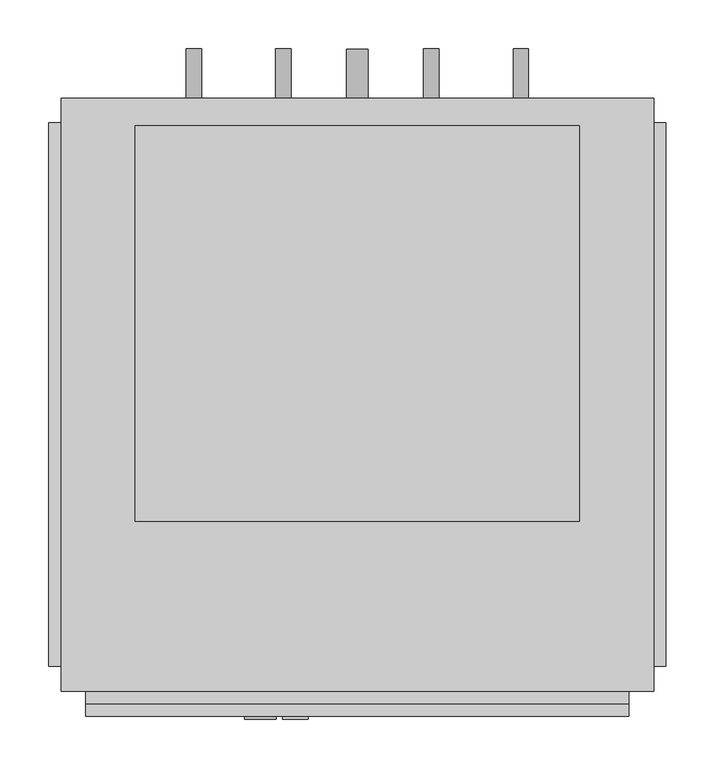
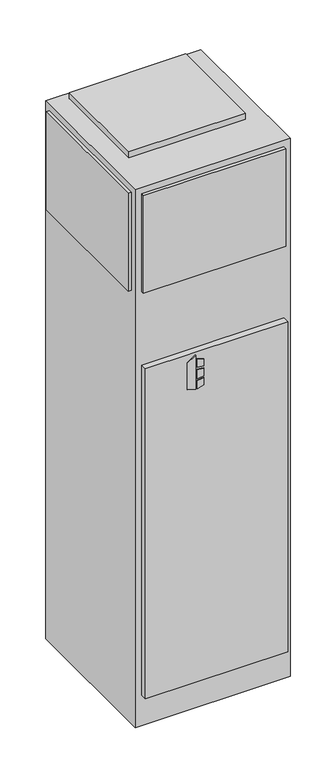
"""IFC4 building model written with IfcOpenShell, lengths in millimetres: proxy geometry, Concealed_Universal_Modular_Fan_Coil_Unit_-_MUY_-_IEC_-_4-Pipe_-_NoRisers_2022 : Size 10 - 277v/60Hz/1Ph - 4/1 Coil."""

import ifcopenshell
import ifcopenshell.guid

model = None  # the IFC model being written
_history = None  # IfcOwnerHistory: only IFC2X3 demands one
_inside = {}  # id of a spatial element -> (the spatial element, [elements in it])
_under = {}  # id of a project, library or spatial element -> (it, [spatial elements below it])
_declared = {}  # id of a project -> (the project, [libraries it declares])
_typed = {}  # id of a type object -> (the type object, [elements of that type])
_made_of = {}  # id of a material, layer set ... -> (it, [elements and type objects made of it])


def new_model(schema):
    """Start an empty IFC model of exactly this schema.

    Asked for "IFC4X3", IfcOpenShell would pick the latest addendum, in which some entities
    have other attributes; the version numbers below select the first issue.
    IFC2X3 requires an IfcOwnerHistory on every rooted entity: one is made here for all.
    """
    global model, _history
    if schema == "IFC4X3":
        model = ifcopenshell.file(schema_version=(4, 3, 0, 0))
    else:
        model = ifcopenshell.file(schema=schema)
    _inside.clear()
    _under.clear()
    _declared.clear()
    _typed.clear()
    _made_of.clear()
    _history = None
    if model.schema == "IFC2X3":
        org = make("IfcOrganization", Name="unknown")
        user = make(
            "IfcPersonAndOrganization",
            ThePerson=make("IfcPerson", FamilyName="unknown"),
            TheOrganization=org,
        )
        app = make(
            "IfcApplication",
            ApplicationDeveloper=org,
            Version="unknown",
            ApplicationFullName="unknown",
            ApplicationIdentifier="unknown",
        )
        _history = make(
            "IfcOwnerHistory",
            OwningUser=user,
            OwningApplication=app,
            ChangeAction="ADDED",
            CreationDate=0,
        )
    return model


def make(cls, **values):
    """One entity of the class cls with the attributes given. An attribute that is None is left unset."""
    return model.create_entity(
        cls, **{name: value for name, value in values.items() if value is not None}
    )


def rooted(cls, **values):
    """An entity with a GlobalId (a new one), such as an element, a storey or a relation."""
    return make(cls, GlobalId=ifcopenshell.guid.new(), OwnerHistory=_history, **values)


def si_unit(unit_type, name, prefix=None):
    """IfcSIUnit, for example si_unit("LENGTHUNIT", "METRE", prefix="MILLI")."""
    return make("IfcSIUnit", UnitType=unit_type, Prefix=prefix, Name=name)


def assignment(units):
    """IfcUnitAssignment: the units of a project."""
    return None if units is None else make("IfcUnitAssignment", Units=units)


def point(xyz):
    """IfcCartesianPoint."""
    return None if xyz is None else make("IfcCartesianPoint", Coordinates=xyz)


def direction(xyz):
    """IfcDirection."""
    return None if xyz is None else make("IfcDirection", DirectionRatios=xyz)


def frame(location, z_axis=None, x_axis=None):
    """IfcAxis2Placement3D, a coordinate frame: its origin and axes. An axis left out is left unset."""
    return make(
        "IfcAxis2Placement3D",
        Location=point(location),
        Axis=direction(z_axis),
        RefDirection=direction(x_axis),
    )


def frame_2d(location, x_axis=None):
    """IfcAxis2Placement2D, a coordinate frame in the plane: its origin and x axis."""
    return make(
        "IfcAxis2Placement2D", Location=point(location), RefDirection=direction(x_axis)
    )


def origin():
    """The frame at (0, 0, 0) with its axes left unset."""
    return frame((0.0, 0.0, 0.0))


def origin_with_axes():
    """The frame at (0, 0, 0) with the z axis (0, 0, 1) and the x axis (1, 0, 0) written out."""
    return frame((0.0, 0.0, 0.0), z_axis=(0.0, 0.0, 1.0), x_axis=(1.0, 0.0, 0.0))


def place(relative_to, where):
    """IfcLocalPlacement: puts the frame where relative to a parent placement (None: the world)."""
    return make(
        "IfcLocalPlacement", PlacementRelTo=relative_to, RelativePlacement=where
    )


def context(
    kind, dimensions, precision=None, world=None, true_north=None, identifier=None
):
    """IfcGeometricRepresentationContext, for example the 3D "Model" context."""
    return make(
        "IfcGeometricRepresentationContext",
        ContextIdentifier=identifier,
        ContextType=kind,
        CoordinateSpaceDimension=dimensions,
        Precision=precision,
        WorldCoordinateSystem=world,
        TrueNorth=true_north,
    )


def project(units=None, contexts=None):
    """IfcProject with its units and contexts."""
    return rooted(
        "IfcProject",
        Name="project",
        RepresentationContexts=contexts,
        UnitsInContext=assignment(units),
    )


def spatial(cls, under=None, at=None, **own):
    """A site, building, storey or space (cls), placed at a placement, below another one or the project."""
    s = rooted(cls, ObjectPlacement=at, **own)
    if under is not None:
        _under.setdefault(under.id(), (under, []))[1].append(s)
    return s


def polyline(points):
    """IfcPolyline through the points."""
    return make("IfcPolyline", Points=[point(p) for p in points])


def circle_curve(where, radius):
    """IfcCircle in the frame where."""
    return make("IfcCircle", Position=where, Radius=radius)


def trimmed(basis, trim1, trim2, sense, master):
    """IfcTrimmedCurve: the piece of a basis curve between two trims."""
    return make(
        "IfcTrimmedCurve",
        BasisCurve=basis,
        Trim1=trim1,
        Trim2=trim2,
        SenseAgreement=sense,
        MasterRepresentation=master,
    )


def segment(curve, same_sense, transition):
    """IfcCompositeCurveSegment."""
    return make(
        "IfcCompositeCurveSegment",
        Transition=transition,
        SameSense=same_sense,
        ParentCurve=curve,
    )


def composite_curve(segments, self_intersect=None):
    """IfcCompositeCurve: segments joined end to end."""
    return make("IfcCompositeCurve", Segments=segments, SelfIntersect=self_intersect)


def outline(outer, holes=None, kind="AREA"):
    """IfcArbitraryClosedProfileDef: a profile drawn as a closed curve; with holes, ...WithVoids."""
    if holes is None:
        return make("IfcArbitraryClosedProfileDef", ProfileType=kind, OuterCurve=outer)
    return make(
        "IfcArbitraryProfileDefWithVoids",
        ProfileType=kind,
        OuterCurve=outer,
        InnerCurves=holes,
    )


def extrude(swept, where, along, depth):
    """IfcExtrudedAreaSolid: the profile swept, set in the frame where, extruded along a direction by depth."""
    return make(
        "IfcExtrudedAreaSolid",
        SweptArea=swept,
        Position=where,
        ExtrudedDirection=direction(along),
        Depth=depth,
    )


def shape(context_of_items, identifier, shape_type, items):
    """IfcShapeRepresentation: the items that make up one representation, for example the "Body"."""
    return make(
        "IfcShapeRepresentation",
        ContextOfItems=context_of_items,
        RepresentationIdentifier=identifier,
        RepresentationType=shape_type,
        Items=items,
    )


def source(mapping_origin, context_of_items, identifier, shape_type, items):
    """IfcRepresentationMap: a shape defined once, which mapped items show again and again."""
    return make(
        "IfcRepresentationMap",
        MappingOrigin=mapping_origin,
        MappedRepresentation=shape(context_of_items, identifier, shape_type, items),
    )


def transform(
    local_origin,
    x_axis=None,
    y_axis=None,
    z_axis=None,
    scale=None,
    scale2=None,
    scale3=None,
    uniform=True,
):
    """IfcCartesianTransformationOperator3D, or its non-uniform kind. x_axis, y_axis, z_axis: its Axis1, 2, 3."""
    if uniform:
        return make(
            "IfcCartesianTransformationOperator3D",
            Axis1=direction(x_axis),
            Axis2=direction(y_axis),
            LocalOrigin=point(local_origin),
            Scale=scale,
            Axis3=direction(z_axis),
        )
    return make(
        "IfcCartesianTransformationOperator3DnonUniform",
        Axis1=direction(x_axis),
        Axis2=direction(y_axis),
        LocalOrigin=point(local_origin),
        Scale=scale,
        Axis3=direction(z_axis),
        Scale2=scale2,
        Scale3=scale3,
    )


def mapped(mapping_source, mapping_target):
    """IfcMappedItem: shows the shape of a source again, moved by a transform."""
    return make(
        "IfcMappedItem", MappingSource=mapping_source, MappingTarget=mapping_target
    )


def made_of(thing, what):
    """Note that an element or type object is made of a material, layer set ...; save() writes the relation."""
    if what is not None:
        _made_of.setdefault(what.id(), (what, []))[1].append(thing)
    return thing


def element(
    cls,
    number,
    at=None,
    inside=None,
    cuts=None,
    type_object=None,
    material=None,
    context=None,
    identifier="Body",
    shape_type=None,
    held_by="IfcProductDefinitionShape",
    body=None,
    shapes=None,
    **own,
):
    """One element of the class cls, such as IfcWall. Its Tag is "e" and its number.

    at: its placement. inside: the storey or other place that contains it. cuts: it is an
    opening in that element (IfcRelVoidsElement). A single representation is given by context,
    identifier, shape_type and body (its items); several are given by shapes. held_by: the class
    of the entity that holds the representations. save() writes the other relations.
    """
    e = rooted(cls, Tag="e%d" % number, ObjectPlacement=at, **own)
    if body is not None:
        shapes = [shape(context, identifier, shape_type, body)]
    if shapes is not None:
        e.Representation = make(held_by, Representations=shapes)
    if inside is not None:
        _inside.setdefault(inside.id(), (inside, []))[1].append(e)
    if cuts is not None:
        rooted(
            "IfcRelVoidsElement", RelatingBuildingElement=cuts, RelatedOpeningElement=e
        )
    if type_object is not None:
        _typed.setdefault(type_object.id(), (type_object, []))[1].append(e)
    return made_of(e, material)


def aggregate(whole, parts):
    """IfcRelAggregates: a whole, such as a stair, and the parts it consists of."""
    return rooted("IfcRelAggregates", RelatingObject=whole, RelatedObjects=parts)


def save(model, path):
    """Write the relations noted so far, then the file.

    IfcRelAggregates (storeys below a building ...), IfcRelContainedInSpatialStructure (elements
    in a storey), IfcRelDefinesByType, IfcRelAssociatesMaterial and IfcRelDeclares: one each for
    every whole, place, type object, material and project.
    """
    for whole, parts in _under.values():
        aggregate(whole, parts)
    for where, things in _inside.values():
        rooted(
            "IfcRelContainedInSpatialStructure",
            RelatedElements=things,
            RelatingStructure=where,
        )
    for kind, things in _typed.values():
        rooted("IfcRelDefinesByType", RelatedObjects=things, RelatingType=kind)
    for what, things in _made_of.values():
        rooted("IfcRelAssociatesMaterial", RelatedObjects=things, RelatingMaterial=what)
    for by, libraries in _declared.values():
        rooted("IfcRelDeclares", RelatingContext=by, RelatedDefinitions=libraries)
    model.write(path)


def mechanical_equipment_065dc9de(model_context):
    return source(origin(), model_context, "Body", "SweptSolid", [
        extrude(outline(polyline([(1356.1480703, 341.3868862), (1346.2, 373.5602728), (1488.3709244, 373.5602728), (1465.3489183, 341.3868862), (1356.1480703, 341.3868862)])), frame((0.0, -393.7, 0.0), z_axis=(0.0, 1.0, 0.0), x_axis=(0.0, 0.0, 1.0)), (0.0, 0.0, 1.0), 3.175),
        extrude(outline(polyline([(1435.1473557, 380.3186058), (1431.9449632, 406.4), (1461.1738042, 406.4), (1469.2382193, 380.3186058), (1435.1473557, 380.3186058)])), frame((0.0, -393.7, 0.0), z_axis=(0.0, 1.0, 0.0), x_axis=(0.0, 0.0, 1.0)), (0.0, 0.0, 1.0), 3.175),
        extrude(outline(polyline([(1383.2838288, 406.4), (1379.6183279, 380.3186058), (1346.2, 380.3186058), (1354.8342372, 406.4), (1383.2838288, 406.4)])), frame((0.0, -393.7, 0.0), z_axis=(0.0, 1.0, 0.0), x_axis=(0.0, 0.0, 1.0)), (0.0, 0.0, 1.0), 3.175),
        extrude(outline(polyline([(1422.5989903, 406.4), (1424.8808166, 380.3186058), (1388.9432681, 380.3186058), (1391.6845331, 406.4), (1422.5989903, 406.4)])), frame((0.0, -393.7, 0.0), z_axis=(0.0, 1.0, 0.0), x_axis=(0.0, 0.0, 1.0)), (0.0, 0.0, 1.0), 3.175),
        extrude(outline(composite_curve([segment(trimmed(circle_curve(frame_2d((990.6, 625.475)), 7.9375), [point((990.6, 617.5375))], [point((990.6, 633.4125))], False, "CARTESIAN"), True, "CONTINUOUS"), segment(trimmed(circle_curve(frame_2d((990.6, 625.475)), 7.9375), [point((990.6, 633.4125))], [point((990.6, 617.5375))], False, "CARTESIAN"), True, "CONTINUOUS")], self_intersect=False)), frame((0.0, 244.475, 0.0), z_axis=(0.0, 1.0, 0.0), x_axis=(0.0, 0.0, 1.0)), (0.0, 0.0, 1.0), 50.8),
        extrude(outline(composite_curve([segment(trimmed(circle_curve(frame_2d((990.6, 533.4)), 7.9375), [point((990.6, 525.4625))], [point((990.6, 541.3375))], False, "CARTESIAN"), True, "CONTINUOUS"), segment(trimmed(circle_curve(frame_2d((990.6, 533.4)), 7.9375), [point((990.6, 541.3375))], [point((990.6, 525.4625))], False, "CARTESIAN"), True, "CONTINUOUS")], self_intersect=False)), frame((0.0, 244.475, 0.0), z_axis=(0.0, 1.0, 0.0), x_axis=(0.0, 0.0, 1.0)), (0.0, 0.0, 1.0), 50.8),
        extrude(outline(composite_curve([segment(trimmed(circle_curve(frame_2d((990.6, 381.0)), 7.9375), [point((990.6, 373.0625))], [point((990.6, 388.9375))], False, "CARTESIAN"), True, "CONTINUOUS"), segment(trimmed(circle_curve(frame_2d((990.6, 381.0)), 7.9375), [point((990.6, 388.9375))], [point((990.6, 373.0625))], False, "CARTESIAN"), True, "CONTINUOUS")], self_intersect=False)), frame((0.0, 244.475, 0.0), z_axis=(0.0, 1.0, 0.0), x_axis=(0.0, 0.0, 1.0)), (0.0, 0.0, 1.0), 50.8),
        extrude(outline(composite_curve([segment(trimmed(circle_curve(frame_2d((990.6, 288.925)), 7.9375), [point((990.6, 280.9875))], [point((990.6, 296.8625))], False, "CARTESIAN"), True, "CONTINUOUS"), segment(trimmed(circle_curve(frame_2d((990.6, 288.925)), 7.9375), [point((990.6, 296.8625))], [point((990.6, 280.9875))], False, "CARTESIAN"), True, "CONTINUOUS")], self_intersect=False)), frame((0.0, 244.475, 0.0), z_axis=(0.0, 1.0, 0.0), x_axis=(0.0, 0.0, 1.0)), (0.0, 0.0, 1.0), 50.8),
        extrude(outline(composite_curve([segment(trimmed(circle_curve(frame_2d((76.2, 457.2)), 11.1125), [point((76.2, 446.0875))], [point((76.2, 468.3125))], False, "CARTESIAN"), True, "CONTINUOUS"), segment(trimmed(circle_curve(frame_2d((76.2, 457.2)), 11.1125), [point((76.2, 468.3125))], [point((76.2, 446.0875))], False, "CARTESIAN"), True, "CONTINUOUS")], self_intersect=False)), frame((0.0, 244.475, 0.0), z_axis=(0.0, 1.0, 0.0), x_axis=(0.0, 0.0, 1.0)), (0.0, 0.0, 1.0), 50.8),
        extrude(outline(polyline([(685.8, 215.9), (685.8, -190.5), (228.6, -190.5), (228.6, 215.9), (685.8, 215.9)])), frame((0.0, 0.0, 2235.2), z_axis=(0.0, 0.0, 1.0), x_axis=(1.0, 0.0, 0.0)), (0.0, 0.0, 1.0), 25.4),
        extrude(outline(polyline([(139.7, -339.725), (139.7, 219.075), (152.4, 219.075), (152.4, -339.725), (139.7, -339.725)])), frame((0.0, 0.0, 1803.4), z_axis=(0.0, 0.0, 1.0), x_axis=(1.0, 0.0, 0.0)), (0.0, 0.0, 1.0), 406.4),
        extrude(outline(polyline([(774.7, 219.075), (774.7, -339.725), (762.0, -339.725), (762.0, 219.075), (774.7, 219.075)])), frame((0.0, 0.0, 1803.4), z_axis=(0.0, 0.0, 1.0), x_axis=(1.0, 0.0, 0.0)), (0.0, 0.0, 1.0), 406.4),
        extrude(outline(polyline([(736.6, -377.825), (177.8, -377.825), (177.8, -365.125), (736.6, -365.125), (736.6, -377.825)])), frame((0.0, 0.0, 1803.4), z_axis=(0.0, 0.0, 1.0), x_axis=(1.0, 0.0, 0.0)), (0.0, 0.0, 1.0), 406.4),
        extrude(outline(polyline([(736.6, -390.525), (177.8, -390.525), (177.8, -365.125), (736.6, -365.125), (736.6, -390.525)])), frame((0.0, 0.0, 127.0), z_axis=(0.0, 0.0, 1.0), x_axis=(1.0, 0.0, 0.0)), (0.0, 0.0, 1.0), 1371.6),
        extrude(outline(polyline([(762.0, 244.475), (762.0, -365.125), (152.4, -365.125), (152.4, 244.475), (762.0, 244.475)])), origin_with_axes(), (0.0, 0.0, 1.0), 2235.2),
    ])


if __name__ == "__main__":
    model = new_model("IFC4")
    model_context = context("Model", 3, world=origin())
    ifc_project = project(units=[si_unit("LENGTHUNIT", "METRE", prefix="MILLI")], contexts=[model_context])
    site = spatial("IfcSite", under=ifc_project)
    building = spatial("IfcBuilding", under=site)
    placement = place(None, origin())
    mechanical_equipment_shape = mechanical_equipment_065dc9de(model_context)
    element("IfcBuildingElementProxy", 1, Name="Concealed_Universal_Modular_Fan_Coil_Unit_-_MUY_-_IEC_-_4-Pipe_-_NoRisers_2022 : Size 10 - 277v/60Hz/1Ph - 4/1 Coil", ObjectType="Concealed_Universal_Modular_Fan_Coil_Unit_-_MUY_-_IEC_-_4-Pipe_-_NoRisers_2022 : Size 10 - 277v/60Hz/1Ph - 4/1 Coil", at=placement, inside=building, context=model_context, shape_type="MappedRepresentation", body=[
        mapped(mechanical_equipment_shape, transform((0.0, 0.0, 0.0), x_axis=(1.0, 0.0, 0.0), y_axis=(0.0, 1.0, 0.0), z_axis=(0.0, 0.0, 1.0))),
    ])
    save(model, "model.ifc")
